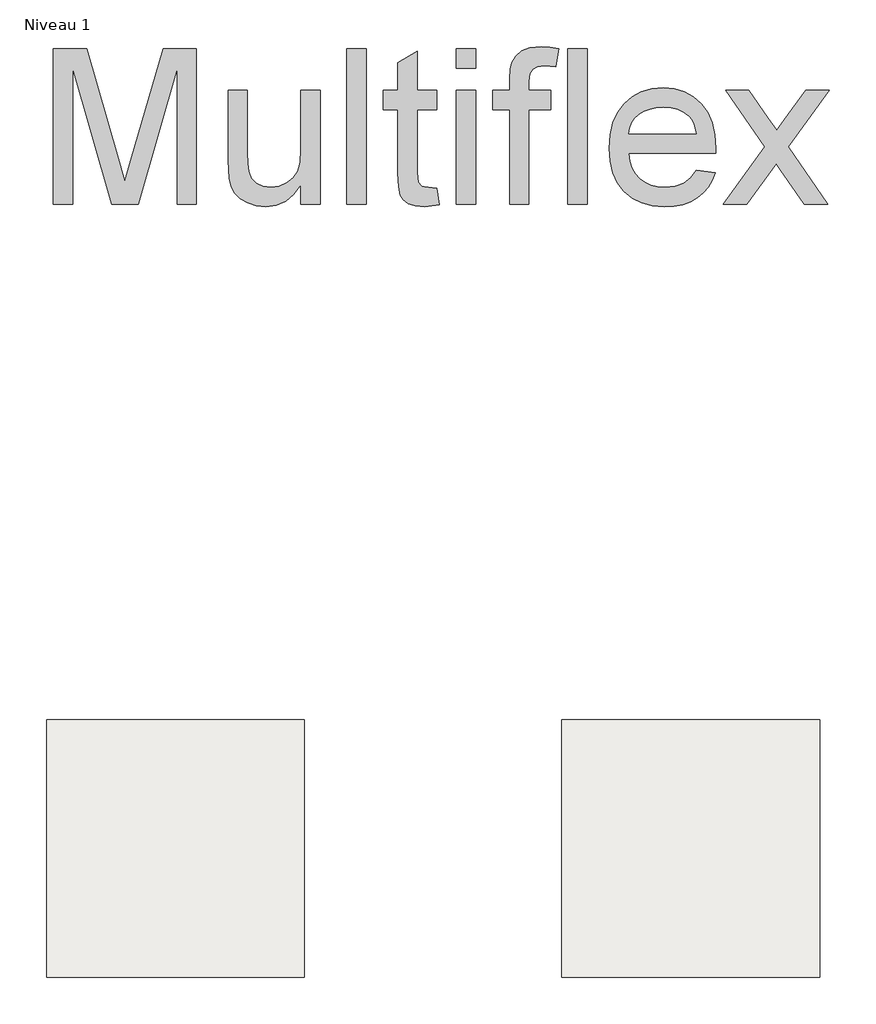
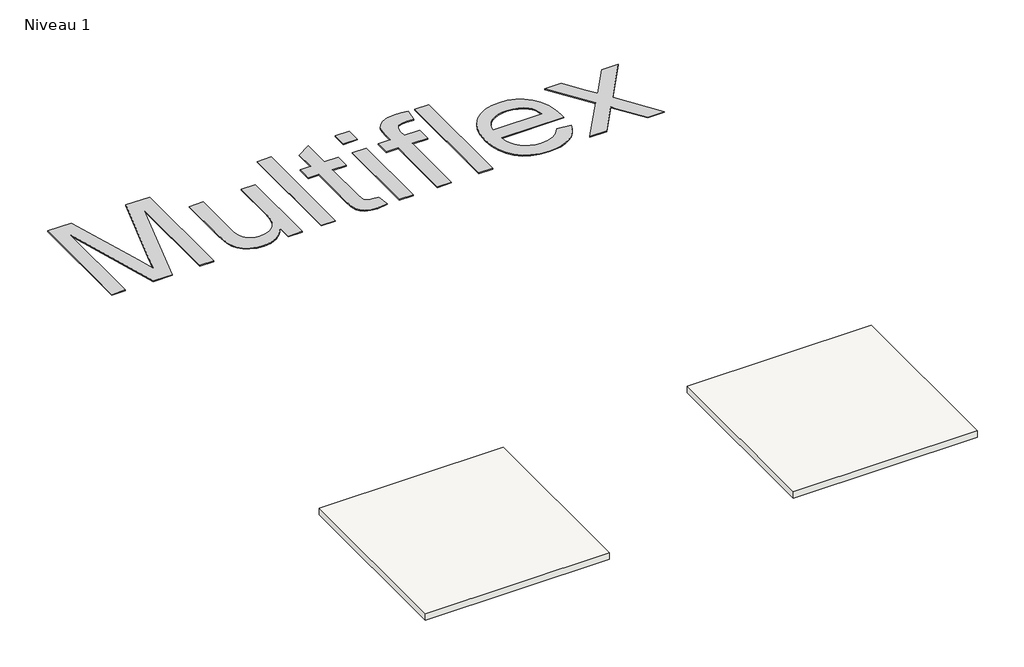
# One storey, incomplete: 2 coverings, 1 proxy.
"""IFC4 building model written with IfcOpenShell, lengths in millimetres."""

from ifc_helpers import new_model, si_unit, frame, origin, origin_with_axes, place, context, project, spatial, polyline, outline, extrude, element, save

model = new_model("IFC4")

# Units and contexts
model_context = context("Model", 3, world=origin())
ifc_project = project(units=[si_unit("LENGTHUNIT", "METRE", prefix="MILLI")], contexts=[model_context])

# Site, building, storey
site = spatial("IfcSite", under=ifc_project)
building = spatial("IfcBuilding", under=site)
storey = spatial("IfcBuildingStorey", under=building, Name="Niveau 1", Elevation=0.0)

# Proxy
placement = place(None, origin())
element("IfcBuildingElementProxy", 1, Name="600mm Arial", ObjectType="600mm Arial", at=placement, inside=storey, context=model_context, shape_type="SweptSolid", body=[
    extrude(outline(polyline([(12827.6212081, -9979.4183832), (12827.6212081, -9376.6805223), (12957.2628232, -9376.6805223), (13080.576868, -9801.5106503), (13105.4456909, -9890.2437875), (13132.3746529, -9794.1530104), (13253.6285585, -9376.6805223), (13383.2701736, -9376.6805223), (13383.2701736, -9979.4183832), (13307.927941, -9979.4183832), (13307.927941, -9452.0227549), (13156.5077118, -9979.4183832), (13054.38367, -9979.4183832), (12902.9634407, -9452.0227549), (12902.9634407, -9979.4183832), (12827.6212081, -9979.4183832)])), origin_with_axes(), (0.0, 0.0, 1.0), 5.0),
    extrude(outline(polyline([(13788.2346739, -9979.4183832), (13788.2346739, -9903.3403866), (13760.9746181, -9940.7447884), (13729.2264019, -9967.4622183), (13692.9900254, -9983.4926763), (13652.2654885, -9988.8361622), (13615.5692595, -9985.0837659), (13581.4114162, -9973.8265768), (13552.7534088, -9956.9040051), (13532.5566873, -9936.1554605), (13518.9634476, -9910.9555439), (13510.1158856, -9880.6788557), (13505.7013016, -9810.6341238), (13505.7013016, -9536.7827666), (13581.0435342, -9536.7827666), (13581.0435342, -9775.1702994), (13582.1839684, -9822.847806), (13585.605271, -9851.98406), (13596.5865485, -9877.607041), (13615.4037126, -9897.0863926), (13640.8059644, -9909.3920454), (13671.5425051, -9913.4939296), (13704.0448793, -9909.3000749), (13734.4503262, -9896.7185106), (13759.5214842, -9876.9080652), (13776.0209917, -9851.0275668), (13785.1812534, -9815.5821366), (13788.2346739, -9767.0768955), (13788.2346739, -9536.7827666), (13863.5769065, -9536.7827666), (13863.5769065, -9979.4183832), (13788.2346739, -9979.4183832)])), origin_with_axes(), (0.0, 0.0, 1.0), 5.0),
    extrude(outline(polyline([(13967.1724764, -9979.4183832), (13967.1724764, -9376.6805223), (14042.514709, -9376.6805223), (14042.514709, -9979.4183832), (13967.1724764, -9979.4183832)])), origin_with_axes(), (0.0, 0.0, 1.0), 5.0),
    extrude(outline(polyline([(14315.6303022, -9916.5841384), (14325.0480813, -9981.6256751), (14268.6885596, -9988.8361622), (14232.5257595, -9985.7091653), (14205.5600093, -9976.3281744), (14186.5037219, -9961.870412), (14174.0693105, -9943.5131004), (14167.2267054, -9911.9856134), (14164.945837, -9858.0173248), (14164.945837, -9612.1249992), (14108.4391625, -9612.1249992), (14108.4391625, -9536.7827666), (14164.945837, -9536.7827666), (14164.945837, -9429.2140712), (14240.2880696, -9384.921079), (14240.2880696, -9536.7827666), (14315.6303022, -9536.7827666), (14315.6303022, -9612.1249992), (14240.2880696, -9612.1249992), (14240.2880696, -9855.8100328), (14244.2611952, -9894.6583715), (14257.137065, -9908.4171581), (14268.0079779, -9912.2247367), (14282.8152282, -9913.4939296), (14315.6303022, -9916.5841384)])), origin_with_axes(), (0.0, 0.0, 1.0), 5.0),
    extrude(outline(polyline([(14390.9725348, -9452.0227549), (14390.9725348, -9376.6805223), (14466.3147674, -9376.6805223), (14466.3147674, -9452.0227549), (14390.9725348, -9452.0227549)])), origin_with_axes(), (0.0, 0.0, 1.0), 5.0),
    extrude(outline(polyline([(14390.9725348, -9979.4183832), (14390.9725348, -9536.7827666), (14466.3147674, -9536.7827666), (14466.3147674, -9979.4183832), (14390.9725348, -9979.4183832)])), origin_with_axes(), (0.0, 0.0, 1.0), 5.0),
    extrude(outline(polyline([(14598.1636745, -9979.4183832), (14598.1636745, -9612.1249992), (14532.239221, -9612.1249992), (14532.239221, -9536.7827666), (14598.1636745, -9536.7827666), (14598.1636745, -9492.1954687), (14600.1502373, -9455.2969046), (14606.1099256, -9429.361224), (14621.2666638, -9404.3084601), (14644.6639587, -9384.4796206), (14677.4054563, -9371.5669625), (14720.5948025, -9367.2627432), (14753.2995119, -9369.3228824), (14789.3151592, -9375.5032999), (14778.2786994, -9446.136643), (14734.8686239, -9442.6049758), (14706.2290106, -9445.7319728), (14687.4118465, -9455.1129636), (14676.982392, -9473.0288168), (14673.5059071, -9501.7604006), (14673.5059071, -9536.7827666), (14758.2659188, -9536.7827666), (14758.2659188, -9612.1249992), (14673.5059071, -9612.1249992), (14673.5059071, -9979.4183832), (14598.1636745, -9979.4183832)])), origin_with_axes(), (0.0, 0.0, 1.0), 5.0),
    extrude(outline(polyline([(14824.1903723, -9979.4183832), (14824.1903723, -9376.6805223), (14899.532605, -9376.6805223), (14899.532605, -9979.4183832), (14824.1903723, -9979.4183832)])), origin_with_axes(), (0.0, 0.0, 1.0), 5.0),
    extrude(outline(polyline([(15322.4497466, -9847.5694761), (15396.3204512, -9856.9872552), (15384.9942843, -9886.5741646), (15369.7041889, -9912.647801), (15350.450165, -9935.2081644), (15327.2322126, -9954.2552547), (15300.2894549, -9969.3844017), (15269.8610154, -9980.1909353), (15235.946894, -9986.6748555), (15198.5470906, -9988.8361622), (15151.7984861, -9985.1067585), (15110.1450472, -9973.9185473), (15073.5867739, -9955.2715287), (15042.1236663, -9929.1657026), (15016.8225821, -9896.327636), (14998.7503791, -9857.4838959), (14987.9070573, -9812.6344821), (14984.2926167, -9761.7793948), (14987.9438455, -9709.1998607), (14998.8975319, -9662.8559263), (15017.1536759, -9622.7475918), (15042.7122775, -9588.8748571), (15074.0926117, -9561.9642891), (15109.8139534, -9542.7424549), (15149.8763027, -9531.2093543), (15194.2796595, -9527.3649875), (15237.2528751, -9531.2001573), (15276.1150093, -9542.7056667), (15310.8660623, -9561.8815157), (15341.506034, -9588.7277043), (15366.5174111, -9622.5268626), (15384.3826805, -9662.5616207), (15395.1018421, -9708.8319787), (15398.674896, -9761.3379364), (15398.2334376, -9781.6450226), (15059.6348493, -9781.6450226), (15063.9988494, -9811.7101786), (15072.676266, -9838.0413324), (15085.6670989, -9860.638484), (15102.9713483, -9879.5016333), (15123.6325208, -9894.3732629), (15146.6941234, -9904.9958555), (15172.156156, -9911.3694111), (15200.0186186, -9913.4939296), (15240.1177561, -9909.5575923), (15273.8893233, -9897.7485802), (15301.3333201, -9877.3311295), (15322.4497466, -9847.5694761)]), holes=[polyline([(15059.6348493, -9706.3027899), (15323.3326634, -9706.3027899), (15313.1423321, -9666.4979581), (15304.3775436, -9650.8445792), (15293.1663398, -9638.0238916), (15272.6201304, -9622.5728478), (15249.2412296, -9611.536388), (15223.0296374, -9604.9145121), (15193.9853539, -9602.7072201), (15167.4932517, -9604.4684551), (15143.1992445, -9609.7521603), (15121.1033321, -9618.5583356), (15101.2055147, -9630.8869809), (15084.5082707, -9646.1678793), (15072.0140784, -9663.8308136), (15063.7229379, -9683.8757838), (15059.6348493, -9706.3027899)])]), origin_with_axes(), (0.0, 0.0, 1.0), 5.0),
    extrude(outline(polyline([(15426.9282332, -9979.4183832), (15587.9133943, -9756.9233525), (15436.3460123, -9536.7827666), (15526.9921359, -9536.7827666), (15600.1270766, -9642.7327812), (15634.2665257, -9692.7647325), (15663.8442381, -9651.8562547), (15747.1327218, -9536.7827666), (15837.7788455, -9536.7827666), (15678.5595179, -9756.9233525), (15831.8927335, -9979.4183832), (15741.2466099, -9979.4183832), (15648.9818055, -9845.6564897), (15632.0592338, -9821.2291252), (15517.5743569, -9979.4183832), (15426.9282332, -9979.4183832)])), origin_with_axes(), (0.0, 0.0, 1.0), 5.0),
])

# Coverings
element("IfcCovering", 2, ObjectType="TARKETT - Multiflex M - Beech", at=placement, inside=storey, context=model_context, shape_type="SweptSolid", body=[
    extrude(outline(polyline([(13801.5036336, -11979.4183832), (13801.5036336, -12979.4183832), (12801.5036336, -12979.4183832), (12801.5036336, -11979.4183832), (13801.5036336, -11979.4183832)])), frame((0.0, 0.0, -38.0), z_axis=(0.0, 0.0, 1.0), x_axis=(1.0, 0.0, 0.0)), (0.0, 0.0, 1.0), 38.0),
])
element("IfcCovering", 3, ObjectType="TARKETT - Multiflex M - Oak", at=placement, inside=storey, context=model_context, shape_type="SweptSolid", body=[
    extrude(outline(polyline([(15801.5036336, -11979.4183832), (15801.5036336, -12979.4183832), (14801.5036336, -12979.4183832), (14801.5036336, -11979.4183832), (15801.5036336, -11979.4183832)])), frame((0.0, 0.0, -38.0), z_axis=(0.0, 0.0, 1.0), x_axis=(1.0, 0.0, 0.0)), (0.0, 0.0, 1.0), 38.0),
])

save(model, "model.ifc")
